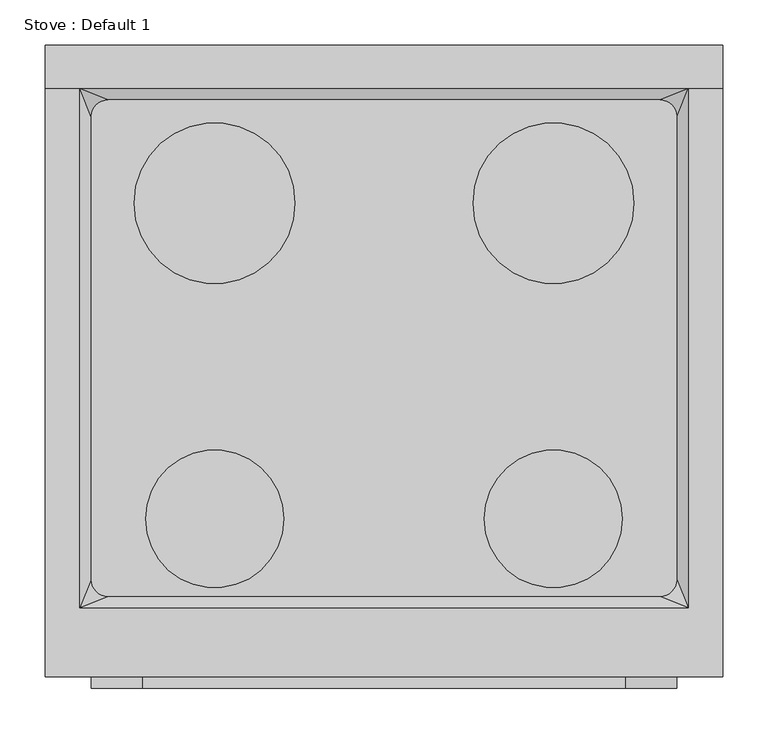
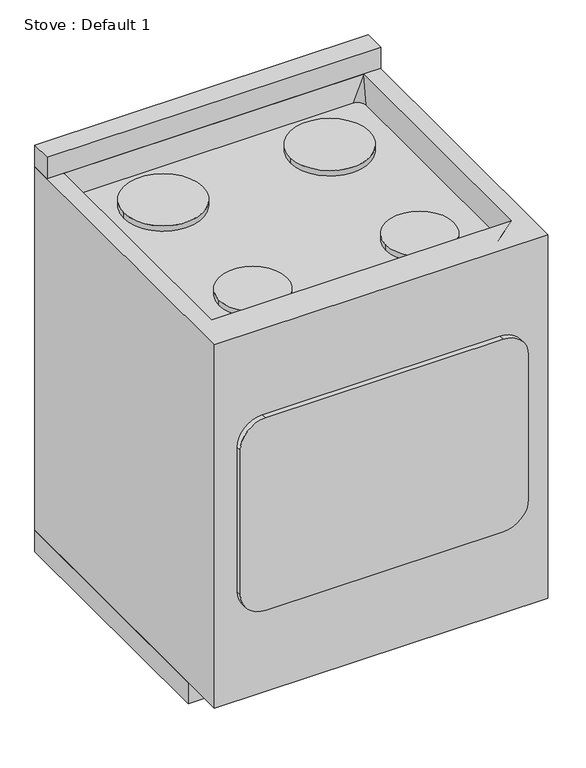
"""IFC4 building model written with IfcOpenShell, lengths in millimetres: proxy geometry, Stove : Default 1."""

from ifc_helpers import new_model, si_unit, point, frame, frame_2d, origin, origin_with_axes, place, context, project, spatial, polyline, circle_curve, trimmed, segment, composite_curve, outline, extrude, source, transform, mapped, element, save
from ifc_brep_helpers import plane_surface, spline_surface, advanced_brep


def stove_default_1_9706c03c(model_context):
    return source(origin(), model_context, "Body", "SolidModel", [
        extrude(outline(composite_curve([segment(trimmed(circle_curve(frame_2d((-187.325, -174.625)), 88.9), [point((-276.225, -174.625))], [point((-98.425, -174.625))], False, "CARTESIAN"), True, "CONTINUOUS"), segment(trimmed(circle_curve(frame_2d((-187.325, -174.625)), 88.9), [point((-98.425, -174.625))], [point((-276.225, -174.625))], False, "CARTESIAN"), True, "CONTINUOUS")], self_intersect=False)), frame((0.0, 0.0, 863.6), z_axis=(0.0, 0.0, 1.0), x_axis=(1.0, 0.0, 0.0)), (0.0, 0.0, 1.0), 12.7),
        extrude(outline(composite_curve([segment(trimmed(circle_curve(frame_2d((187.325, -174.625)), 88.9), [point((276.225, -174.625))], [point((98.425, -174.625))], False, "CARTESIAN"), True, "CONTINUOUS"), segment(trimmed(circle_curve(frame_2d((187.325, -174.625)), 88.9), [point((98.425, -174.625))], [point((276.225, -174.625))], False, "CARTESIAN"), True, "CONTINUOUS")], self_intersect=False)), frame((0.0, 0.0, 863.6), z_axis=(0.0, 0.0, 1.0), x_axis=(1.0, 0.0, 0.0)), (0.0, 0.0, 1.0), 12.7),
        extrude(outline(composite_curve([segment(trimmed(circle_curve(frame_2d((-187.325, -523.875)), 76.2), [point((-263.525, -523.875))], [point((-111.125, -523.875))], False, "CARTESIAN"), True, "CONTINUOUS"), segment(trimmed(circle_curve(frame_2d((-187.325, -523.875)), 76.2), [point((-111.125, -523.875))], [point((-263.525, -523.875))], False, "CARTESIAN"), True, "CONTINUOUS")], self_intersect=False)), frame((0.0, 0.0, 863.6), z_axis=(0.0, 0.0, 1.0), x_axis=(1.0, 0.0, 0.0)), (0.0, 0.0, 1.0), 12.7),
        extrude(outline(composite_curve([segment(trimmed(circle_curve(frame_2d((187.325, -523.875)), 76.2), [point((111.125, -523.875))], [point((263.525, -523.875))], False, "CARTESIAN"), True, "CONTINUOUS"), segment(trimmed(circle_curve(frame_2d((187.325, -523.875)), 76.2), [point((263.525, -523.875))], [point((111.125, -523.875))], False, "CARTESIAN"), True, "CONTINUOUS")], self_intersect=False)), frame((0.0, 0.0, 863.6), z_axis=(0.0, 0.0, 1.0), x_axis=(1.0, 0.0, 0.0)), (0.0, 0.0, 1.0), 12.7),
        extrude(outline(composite_curve([segment(trimmed(circle_curve(frame_2d((187.325, -523.875)), 76.2), [point((111.125, -523.875))], [point((263.525, -523.875))], False, "CARTESIAN"), True, "CONTINUOUS"), segment(trimmed(circle_curve(frame_2d((187.325, -523.875)), 76.2), [point((263.525, -523.875))], [point((111.125, -523.875))], False, "CARTESIAN"), True, "CONTINUOUS")], self_intersect=False)), frame((0.0, 0.0, 863.6), z_axis=(0.0, 0.0, 1.0), x_axis=(1.0, 0.0, 0.0)), (0.0, 0.0, 1.0), 12.7),
        extrude(outline(composite_curve([segment(trimmed(circle_curve(frame_2d((-187.325, -523.875)), 76.2), [point((-263.525, -523.875))], [point((-111.125, -523.875))], False, "CARTESIAN"), True, "CONTINUOUS"), segment(trimmed(circle_curve(frame_2d((-187.325, -523.875)), 76.2), [point((-111.125, -523.875))], [point((-263.525, -523.875))], False, "CARTESIAN"), True, "CONTINUOUS")], self_intersect=False)), frame((0.0, 0.0, 863.6), z_axis=(0.0, 0.0, 1.0), x_axis=(1.0, 0.0, 0.0)), (0.0, 0.0, 1.0), 12.7),
        extrude(outline(composite_curve([segment(trimmed(circle_curve(frame_2d((187.325, -174.625)), 88.9), [point((98.425, -174.625))], [point((276.225, -174.625))], False, "CARTESIAN"), True, "CONTINUOUS"), segment(trimmed(circle_curve(frame_2d((187.325, -174.625)), 88.9), [point((276.225, -174.625))], [point((98.425, -174.625))], False, "CARTESIAN"), True, "CONTINUOUS")], self_intersect=False)), frame((0.0, 0.0, 863.6), z_axis=(0.0, 0.0, 1.0), x_axis=(1.0, 0.0, 0.0)), (0.0, 0.0, 1.0), 12.7),
        extrude(outline(composite_curve([segment(trimmed(circle_curve(frame_2d((-187.325, -174.625)), 88.9), [point((-276.225, -174.625))], [point((-98.425, -174.625))], False, "CARTESIAN"), True, "CONTINUOUS"), segment(trimmed(circle_curve(frame_2d((-187.325, -174.625)), 88.9), [point((-98.425, -174.625))], [point((-276.225, -174.625))], False, "CARTESIAN"), True, "CONTINUOUS")], self_intersect=False)), frame((0.0, 0.0, 863.6), z_axis=(0.0, 0.0, 1.0), x_axis=(1.0, 0.0, 0.0)), (0.0, 0.0, 1.0), 12.7),
        extrude(outline(polyline([(374.65, 0.0), (374.65, -596.9), (-374.65, -596.9), (-374.65, 0.0), (374.65, 0.0)])), origin_with_axes(), (0.0, 0.0, 1.0), 50.8),
        advanced_brep(
        [(374.65, 0.0, 914.4), (-374.65, 0.0, 914.4), (-374.65, -698.5, 914.4), (374.65, -698.5, 914.4), (-336.55, -47.625, 914.4), (336.55, -47.625, 914.4), (336.55, -622.3, 914.4), (-336.55, -622.3, 914.4), (374.65, 0.0, 50.8), (374.65, -698.5, 50.8), (-374.65, -698.5, 50.8), (-374.65, 0.0, 50.8), (304.8, -60.325, 863.6), (-304.8, -60.325, 863.6), (-323.85, -79.375, 863.6), (-323.85, -590.55, 863.6), (-304.8, -609.6, 863.6), (304.8, -609.6, 863.6), (323.85, -590.55, 863.6), (323.85, -79.375, 863.6)],
        [
            (0, 1),
            (1, 2),
            (2, 3),
            (3, 0),
            (4, 5),
            (5, 6),
            (6, 7),
            (7, 4),
            (8, 9),
            (9, 10),
            (10, 11),
            (11, 8),
            (0, 8),
            (11, 1),
            (10, 2),
            (9, 3),
            (12, 13),
            (13, 14, circle_curve(frame((-304.8, -79.375, 863.6), z_axis=(0.0, 0.0, 1.0), x_axis=(1.0, 0.0, 0.0)), 19.05)),
            (14, 15),
            (15, 16, circle_curve(frame((-304.8, -590.55, 863.6), z_axis=(0.0, 0.0, 1.0), x_axis=(1.0, 0.0, 0.0)), 19.05)),
            (16, 17),
            (17, 18, circle_curve(frame((304.8, -590.55, 863.6), z_axis=(0.0, 0.0, 1.0), x_axis=(1.0, 0.0, 0.0)), 19.05)),
            (18, 19),
            (19, 12, circle_curve(frame((304.8, -79.375, 863.6), z_axis=(0.0, 0.0, 1.0), x_axis=(1.0, 0.0, 0.0)), 19.05)),
            (12, 5),
            (4, 13),
            (4, 14),
            (7, 15),
            (7, 16),
            (6, 17),
            (6, 18),
            (5, 19),
        ],
        [
            plane_surface(frame((-374.65, 0.0, 914.4), z_axis=(0.0, 0.0, 1.0), x_axis=(-1.0, 0.0, 0.0))),
            plane_surface(frame((-374.65, 0.0, 50.8), z_axis=(0.0, 0.0, -1.0), x_axis=(1.0, 0.0, 0.0))),
            plane_surface(frame((374.65, 0.0, 914.4), z_axis=(0.0, 1.0, 0.0), x_axis=(0.0, 0.0, -1.0))),
            plane_surface(frame((-374.65, 0.0, 914.4), z_axis=(-1.0, 0.0, 0.0), x_axis=(0.0, 0.0, -1.0))),
            plane_surface(frame((-374.65, -698.5, 914.4), z_axis=(0.0, -1.0, 0.0), x_axis=(0.0, 0.0, -1.0))),
            plane_surface(frame((374.65, -698.5, 914.4), z_axis=(1.0, 0.0, 0.0), x_axis=(0.0, 0.0, -1.0))),
            plane_surface(frame((0.0, -334.9625, 863.6), z_axis=(0.0, 0.0, 1.0), x_axis=(-1.0, 0.0, 0.0))),
            plane_surface(frame((0.0, -60.325, 863.6), z_axis=(0.0, -0.9701425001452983, 0.24253562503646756), x_axis=(-1.0, 0.0, 0.0))),
            spline_surface(1, 2, [[(-304.8, -60.325, 863.6), (-323.85, -60.32500000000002, 863.6), (-323.85, -79.375, 863.6)], [(-336.55, -47.625, 914.4), (-336.55, -47.625, 914.4), (-336.55, -47.625, 914.4)]], [2, 2], [3, 3], [0.0, 1.0], [0.0, 1.0], weights=[[1.0, 0.7071067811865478, 1.0], [1.0, 0.7071067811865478, 1.0]]),
            plane_surface(frame((-323.85, -334.9625, 863.6), z_axis=(0.9701425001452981, 0.0, 0.242535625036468), x_axis=(0.0, -1.0, 0.0))),
            spline_surface(1, 2, [[(-323.85, -590.55, 863.6), (-323.84999999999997, -609.5999999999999, 863.6), (-304.8, -609.6, 863.6)], [(-336.55, -622.3, 914.4), (-336.55, -622.3, 914.4), (-336.55, -622.3, 914.4)]], [2, 2], [3, 3], [0.0, 1.0], [0.0, 1.0], weights=[[1.0, 0.7071067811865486, 1.0], [1.0, 0.7071067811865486, 1.0]]),
            plane_surface(frame((0.0, -609.6, 863.6), z_axis=(0.0, 0.9701425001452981, 0.242535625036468), x_axis=(1.0, 0.0, 0.0))),
            spline_surface(1, 2, [[(304.8, -609.6, 863.6), (323.8500000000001, -609.6000000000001, 863.6), (323.85, -590.55, 863.6)], [(336.55, -622.3, 914.4), (336.55, -622.3, 914.4), (336.55, -622.3, 914.4)]], [2, 2], [3, 3], [0.0, 1.0], [0.0, 1.0], weights=[[1.0, 0.7071067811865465, 1.0], [1.0, 0.7071067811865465, 1.0]]),
            plane_surface(frame((323.85, -334.9625, 863.6), z_axis=(-0.9701425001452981, 0.0, 0.242535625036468), x_axis=(0.0, 1.0, 0.0))),
            spline_surface(1, 2, [[(323.85, -79.375, 863.6), (323.85, -60.32499999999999, 863.6), (304.8, -60.325, 863.6)], [(336.55, -47.625, 914.4), (336.55, -47.625, 914.4), (336.55, -47.625, 914.4)]], [2, 2], [3, 3], [0.0, 1.0], [0.0, 1.0], weights=[[1.0, 0.7071067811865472, 1.0], [1.0, 0.7071067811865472, 1.0]]),
        ],
        [
            (0, [[1, 2, 3, 4], [5, 6, 7, 8]]),
            (1, [[9, 10, 11, 12]]),
            (2, [[-1, 13, -12, 14]]),
            (3, [[-2, -14, -11, 15]]),
            (4, [[-3, -15, -10, 16]]),
            (5, [[-4, -16, -9, -13]]),
            (6, [[17, 18, 19, 20, 21, 22, 23, 24]]),
            (7, [[-17, 25, -5, 26]]),
            (8, [[-18, -26, 27]]),
            (9, [[-19, -27, -8, 28]]),
            (10, [[-20, -28, 29]]),
            (11, [[-21, -29, -7, 30]]),
            (12, [[-22, -30, 31]]),
            (13, [[-23, -31, -6, 32]]),
            (14, [[-24, -32, -25]]),
        ],
    ),
        extrude(outline(composite_curve([segment(polyline([(711.2, 266.7), (711.2, -266.7)]), True, "CONTINUOUS"), segment(trimmed(circle_curve(frame_2d((654.05, -266.7)), 57.15), [point((711.2, -266.7))], [point((654.05, -323.85))], False, "CARTESIAN"), True, "CONTINUOUS"), segment(polyline([(654.05, -323.85), (311.15, -323.85)]), True, "CONTINUOUS"), segment(trimmed(circle_curve(frame_2d((311.15, -266.7)), 57.15), [point((311.15, -323.85))], [point((254.0, -266.7))], False, "CARTESIAN"), True, "CONTINUOUS"), segment(polyline([(254.0, -266.7), (254.0, 266.7)]), True, "CONTINUOUS"), segment(trimmed(circle_curve(frame_2d((311.15, 266.7)), 57.15), [point((254.0, 266.7))], [point((311.15, 323.85))], False, "CARTESIAN"), True, "CONTINUOUS"), segment(polyline([(311.15, 323.85), (654.05, 323.85)]), True, "CONTINUOUS"), segment(trimmed(circle_curve(frame_2d((654.05, 266.7)), 57.15), [point((654.05, 323.85))], [point((711.2, 266.7))], False, "CARTESIAN"), True, "CONTINUOUS")], self_intersect=False)), frame((0.0, -711.2, 0.0), z_axis=(0.0, 1.0, 0.0), x_axis=(0.0, 0.0, 1.0)), (0.0, 0.0, 1.0), 12.7),
        extrude(outline(polyline([(374.65, 0.0), (374.65, -47.625), (-374.65, -47.625), (-374.65, 0.0), (374.65, 0.0)])), frame((0.0, 0.0, 914.4), z_axis=(0.0, 0.0, 1.0), x_axis=(1.0, 0.0, 0.0)), (0.0, 0.0, 1.0), 50.8),
    ])


if __name__ == "__main__":
    model = new_model("IFC4")
    model_context = context("Model", 3, world=origin())
    ifc_project = project(units=[si_unit("LENGTHUNIT", "METRE", prefix="MILLI")], contexts=[model_context])
    site = spatial("IfcSite", under=ifc_project)
    building = spatial("IfcBuilding", under=site)
    placement = place(None, origin())
    stove_default_1_shape = stove_default_1_9706c03c(model_context)
    element("IfcBuildingElementProxy", 1, Name="Stove : Default 1", ObjectType="Stove : Default 1", at=placement, inside=building, context=model_context, shape_type="MappedRepresentation", body=[
        mapped(stove_default_1_shape, transform((0.0, 0.0, 0.0), x_axis=(1.0, 0.0, 0.0), y_axis=(0.0, 1.0, 0.0), z_axis=(0.0, 0.0, 1.0))),
    ])
    save(model, "model.ifc")
